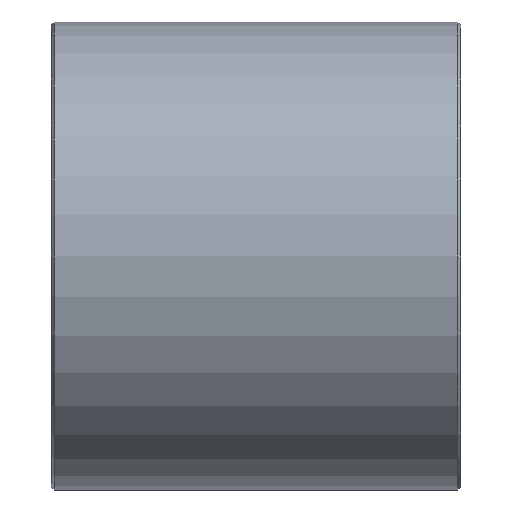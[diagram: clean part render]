
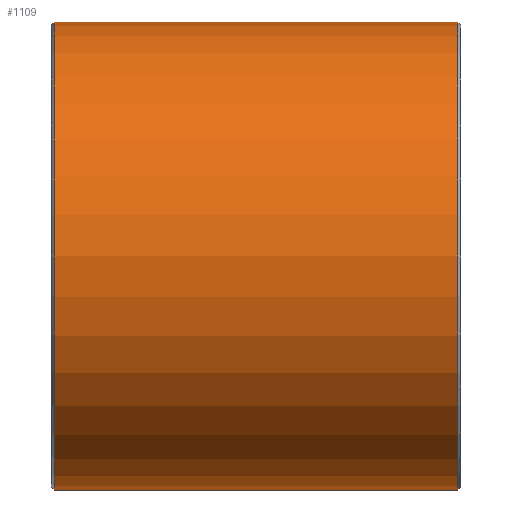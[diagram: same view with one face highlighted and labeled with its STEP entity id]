
A CAD part, left-side view. The second image highlights one B-rep face of the part: STEP entity #1109.
In plain terms, the highlighted cylindrical face has radius 40 mm (diameter 80 mm), a partial arc.
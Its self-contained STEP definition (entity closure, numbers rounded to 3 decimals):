
#12 = VERTEX_POINT ( 'NONE', #693 ) ;
#23 = VECTOR ( 'NONE', #326, 1000. ) ;
#48 = CYLINDRICAL_SURFACE ( 'NONE', #806, 40. ) ;
#76 = CARTESIAN_POINT ( 'NONE',  ( 0., -68., -40. ) ) ;
#91 = CARTESIAN_POINT ( 'NONE',  ( 0., 65.513, -40. ) ) ;
#105 = ORIENTED_EDGE ( 'NONE', *, *, #648, .F. ) ;
#109 = ORIENTED_EDGE ( 'NONE', *, *, #458, .T. ) ;
#144 = DIRECTION ( 'NONE',  ( 0., -1., 0. ) ) ;
#156 = CARTESIAN_POINT ( 'NONE',  ( 0., 1., 40. ) ) ;
#181 = AXIS2_PLACEMENT_3D ( 'NONE', #1256, #375, #1059 ) ;
#222 = FACE_OUTER_BOUND ( 'NONE', #1136, .T. ) ;
#239 = DIRECTION ( 'NONE',  ( 0., 0., 1. ) ) ;
#291 = LINE ( 'NONE', #713, #23 ) ;
#307 = DIRECTION ( 'NONE',  ( 0., 1., 0. ) ) ;
#326 = DIRECTION ( 'NONE',  ( 0., 1., 0. ) ) ;
#336 = CIRCLE ( 'NONE', #855, 40. ) ;
#338 = LINE ( 'NONE', #91, #884 ) ;
#375 = DIRECTION ( 'NONE',  ( 0., 1., 0. ) ) ;
#393 = CIRCLE ( 'NONE', #181, 40. ) ;
#424 = ORIENTED_EDGE ( 'NONE', *, *, #1069, .T. ) ;
#430 = CARTESIAN_POINT ( 'NONE',  ( 0., 65.513, 0. ) ) ;
#458 = EDGE_CURVE ( 'NONE', #588, #12, #393, .T. ) ;
#588 = VERTEX_POINT ( 'NONE', #76 ) ;
#648 = EDGE_CURVE ( 'NONE', #588, #832, #338, .T. ) ;
#693 = CARTESIAN_POINT ( 'NONE',  ( 0., -68., 40. ) ) ;
#700 = CARTESIAN_POINT ( 'NONE',  ( 0., 1., -40. ) ) ;
#713 = CARTESIAN_POINT ( 'NONE',  ( 0., 65.513, 40. ) ) ;
#806 = AXIS2_PLACEMENT_3D ( 'NONE', #430, #1204, #836 ) ;
#832 = VERTEX_POINT ( 'NONE', #700 ) ;
#836 = DIRECTION ( 'NONE',  ( 0., 0., 1. ) ) ;
#855 = AXIS2_PLACEMENT_3D ( 'NONE', #1010, #144, #239 ) ;
#884 = VECTOR ( 'NONE', #307, 1000. ) ;
#1010 = CARTESIAN_POINT ( 'NONE',  ( 0., 1., 0. ) ) ;
#1059 = DIRECTION ( 'NONE',  ( 0., 0., -1. ) ) ;
#1069 = EDGE_CURVE ( 'NONE', #1242, #832, #336, .T. ) ;
#1097 = EDGE_CURVE ( 'NONE', #12, #1242, #291, .T. ) ;
#1109 = ADVANCED_FACE ( 'NONE', ( #222 ), #48, .T. ) ;
#1136 = EDGE_LOOP ( 'NONE', ( #105, #109, #1231, #424 ) ) ;
#1204 = DIRECTION ( 'NONE',  ( 0., 1., 0. ) ) ;
#1231 = ORIENTED_EDGE ( 'NONE', *, *, #1097, .T. ) ;
#1242 = VERTEX_POINT ( 'NONE', #156 ) ;
#1256 = CARTESIAN_POINT ( 'NONE',  ( 0., -68., 0. ) ) ;
